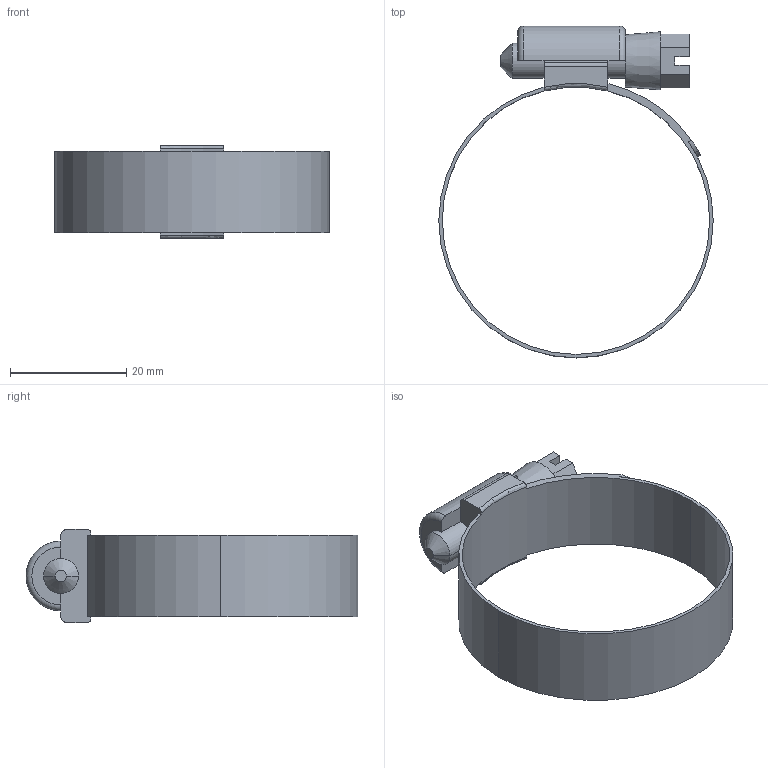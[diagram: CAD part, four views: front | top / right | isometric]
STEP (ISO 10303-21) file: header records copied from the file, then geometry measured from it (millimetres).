
FILE_DESCRIPTION((''),'2;1');
FILE_NAME('N:\Transfer\Berger Martin\Leybold\C13\86623.stp','2005-02-08T11:39:24',('PESO'),(''),'Autodesk Inventor 9','Autodesk Inventor 9','');
FILE_SCHEMA(('AUTOMOTIVE_DESIGN { 1 0 10303 214 1 1 1 1 }'));
Length unit declared in the file: millimetre
Products named in the file (1): 86623
Bounding box: 47.2 x 57.1 x 16 mm (x, y, z)
Volume: 4003 mm3; surface area: 5430.1 mm2
Topology: 1 solids, 1 shells, 56 faces, 157 edges, 102 vertices
Faces by surface type: plane 29, cylinder 19, cone 4, torus 4
Entity records: 1897 total; most frequent: CARTESIAN_POINT 401, ORIENTED_EDGE 314, DIRECTION 311, EDGE_CURVE 157, AXIS2_PLACEMENT_3D 109, VERTEX_POINT 102, VECTOR 93, LINE 93
